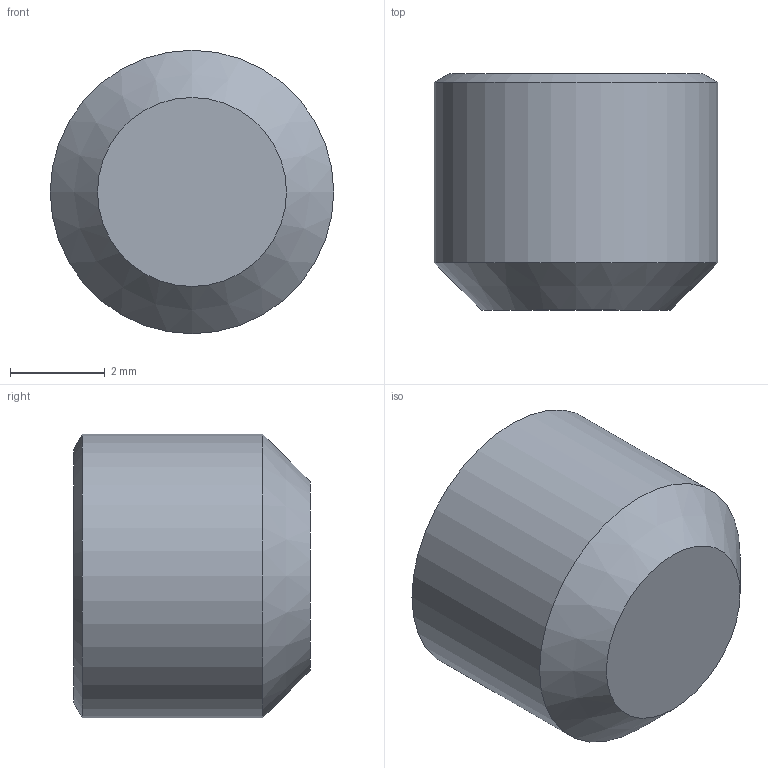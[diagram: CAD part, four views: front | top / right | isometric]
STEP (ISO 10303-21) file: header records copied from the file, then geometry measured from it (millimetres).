
FILE_DESCRIPTION(/* description */ (''),/* implementation_level */ '2;1');
FILE_NAME(/* name */ 'C:\Users\D\Documents\Inventor\各種小物\JIS\止めねじ\平先\M6\M6x5.stp',/* time_stamp */ '2022-06-23T14:26:15+09:00',/* author */ ('D'),/* organization */ (''),/* preprocessor_version */ 'ST-DEVELOPER v18',/* originating_system */ 'Autodesk Inventor 2020',/* authorisation */ '');
FILE_SCHEMA (('AUTOMOTIVE_DESIGN { 1 0 10303 214 3 1 1 }'));
Length unit declared in the file: millimetre
Products named in the file (1): M1.6x2
Bounding box: 6 x 5 x 6 mm (x, y, z)
Volume: 113.8 mm3; surface area: 158.8 mm2
Topology: 1 solids, 1 shells, 12 faces, 28 edges, 18 vertices
Faces by surface type: plane 8, cone 3, cylinder 1
Full cylindrical faces by diameter (mm): 6 x1
Entity records: 369 total; most frequent: CARTESIAN_POINT 72, ORIENTED_EDGE 54, DIRECTION 50, EDGE_CURVE 27, VERTEX_POINT 18, AXIS2_PLACEMENT_3D 17, LINE 16, VECTOR 16
